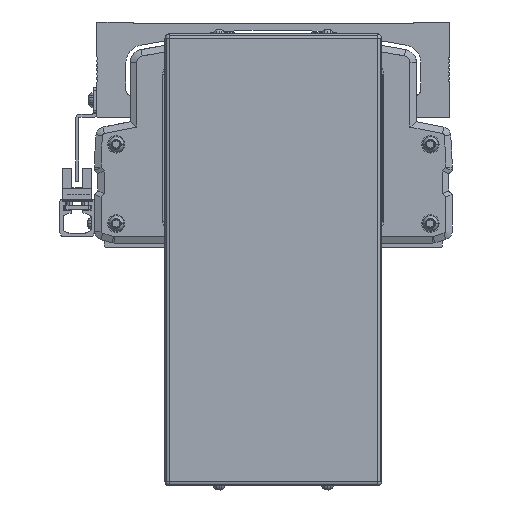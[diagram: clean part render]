
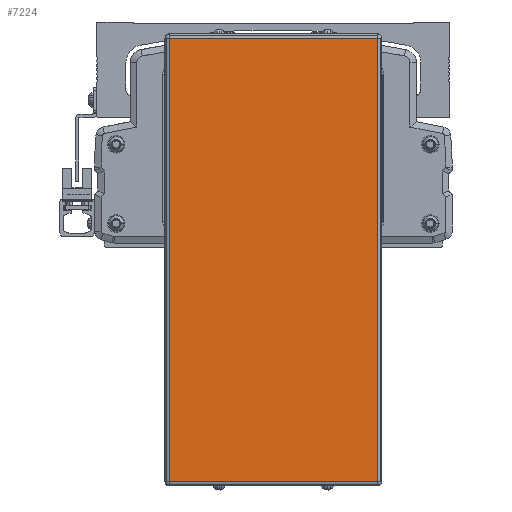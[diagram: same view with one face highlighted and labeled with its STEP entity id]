
A CAD part, front view. The second image highlights one B-rep face of the part: STEP entity #7224.
In plain terms, the highlighted planar face has unit normal (0, -1, 0).
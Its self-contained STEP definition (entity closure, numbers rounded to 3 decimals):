
#7224=ADVANCED_FACE('',(#15011),#15012,.T.);
#15011=FACE_OUTER_BOUND('',#25367,.T.);
#15012=PLANE('',#25368);
#25367=EDGE_LOOP('',(#46845,#46846,#46847,#46848));
#25368=AXIS2_PLACEMENT_3D('',#46849,#46850,#46851);
#46845=ORIENTED_EDGE('',*,*,#52833,.F.);
#46846=ORIENTED_EDGE('',*,*,#54782,.F.);
#46847=ORIENTED_EDGE('',*,*,#58411,.F.);
#46848=ORIENTED_EDGE('',*,*,#52086,.F.);
#46849=CARTESIAN_POINT('',(-600.,27.222,-57.8));
#46850=DIRECTION('',(0.,-1.0,0.));
#46851=DIRECTION('',(0.,0.,-1.0));
#52086=EDGE_CURVE('',#61998,#62000,#62001,.T.);
#52833=EDGE_CURVE('',#63316,#61998,#63318,.T.);
#54782=EDGE_CURVE('',#66684,#63316,#66686,.T.);
#58411=EDGE_CURVE('',#62000,#66684,#72017,.T.);
#61998=VERTEX_POINT('',#76358);
#62000=VERTEX_POINT('',#76360);
#62001=LINE('',#76361,#76362);
#63316=VERTEX_POINT('',#78248);
#63318=LINE('',#78250,#78251);
#66684=VERTEX_POINT('',#83217);
#66686=LINE('',#83219,#83220);
#72017=LINE('',#91291,#91292);
#76358=CARTESIAN_POINT('',(-552.,27.222,44.5));
#76360=CARTESIAN_POINT('',(-552.,27.222,-160.1));
#76361=CARTESIAN_POINT('',(-552.,27.222,-57.8));
#76362=VECTOR('',#96133,10.0);
#78248=CARTESIAN_POINT('',(-648.,27.222,44.5));
#78250=CARTESIAN_POINT('',(-600.,27.222,44.5));
#78251=VECTOR('',#97105,10.0);
#83217=CARTESIAN_POINT('',(-648.,27.222,-160.1));
#83219=CARTESIAN_POINT('',(-648.,27.222,-57.8));
#83220=VECTOR('',#99557,10.0);
#91291=CARTESIAN_POINT('',(-600.,27.222,-160.1));
#91292=VECTOR('',#104028,10.0);
#96133=DIRECTION('',(0.,0.,-1.0));
#97105=DIRECTION('',(1.0,0.,0.));
#99557=DIRECTION('',(0.,0.,1.0));
#104028=DIRECTION('',(-1.0,0.,0.));
